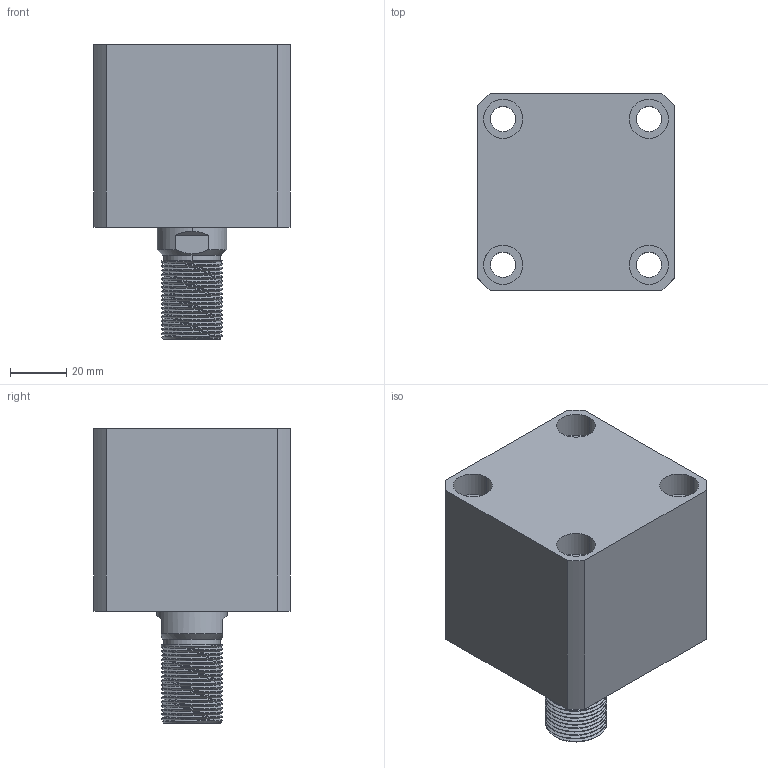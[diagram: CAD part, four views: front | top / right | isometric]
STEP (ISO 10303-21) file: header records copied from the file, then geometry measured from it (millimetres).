
FILE_DESCRIPTION (( 'STEP AP214' ), '1' );
FILE_NAME ('chtb-sd40x10w_asm.STEP', '2018-06-08T07:03:36', ( 'Windows' ), ( 'Microsoft' ), 'SwSTEP 2.0', 'SolidWorks 2015', '' );
FILE_SCHEMA (( 'AUTOMOTIVE_DESIGN' ));
Length unit declared in the file: millimetre
Products named in the file (4): chtb-sd40x10w_asm; CHTB-SD40X10WHSG; CHTB-SD40X10NBT; CHTB-SD40QG
Assembly tree (3 placements, depth 2):
  chtb-sd40x10w_asm
    CHTB-SD40QG
    CHTB-SD40X10NBT
    CHTB-SD40X10WHSG
Bounding box: 70 x 70 x 105 mm (x, y, z)
Volume: 294956.8 mm3; surface area: 66811 mm2
Topology: 3 solids, 4 shells, 203 faces, 533 edges, 355 vertices
Faces by surface type: cylinder 118, plane 40, bspline 16, cone 15, torus 14
Entity records: 13425 total; most frequent: CARTESIAN_POINT 8554, ORIENTED_EDGE 1054, DIRECTION 914, EDGE_CURVE 527, AXIS2_PLACEMENT_3D 380, VERTEX_POINT 355, EDGE_LOOP 240, FACE_OUTER_BOUND 203
